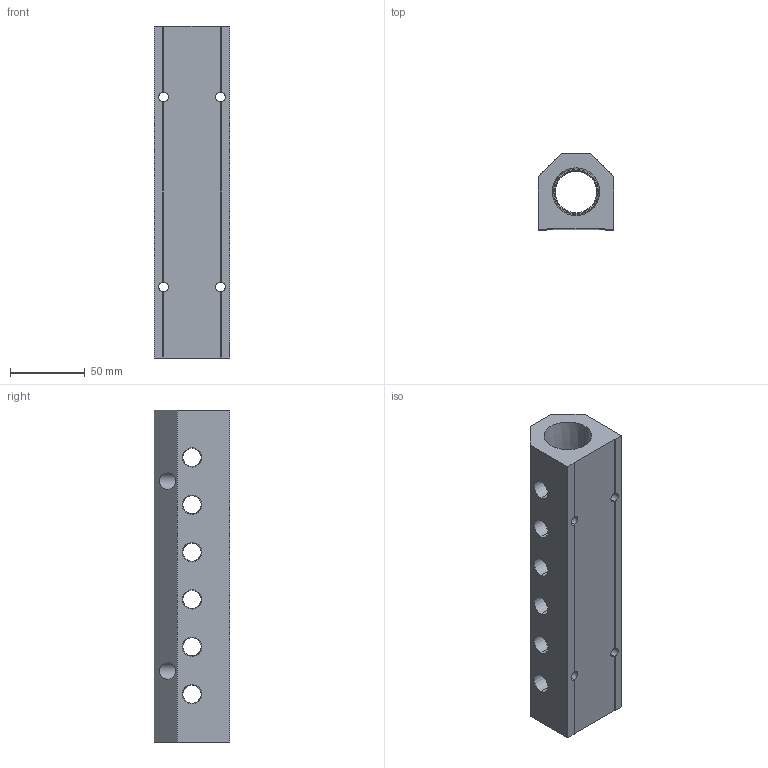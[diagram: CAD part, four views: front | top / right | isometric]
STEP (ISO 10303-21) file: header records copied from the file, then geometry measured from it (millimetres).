
FILE_DESCRIPTION (( 'STEP AP214' ), '1' );
FILE_NAME ('ALM6ACE-N4N16-222B.STEP', '2023-11-02T06:36:45', ( '' ), ( '' ), 'SwSTEP 2.0', 'SolidWorks 2020', '' );
FILE_SCHEMA (( 'AUTOMOTIVE_DESIGN' ));
Length unit declared in the file: millimetre
Products named in the file (1): ALM6ACE-N4N16-222B
Bounding box: 50.8 x 50.8 x 222 mm (x, y, z)
Volume: 338473.9 mm3; surface area: 71942.4 mm2
Topology: 1 solids, 1 shells, 342 faces, 917 edges, 598 vertices
Faces by surface type: plane 218, bspline 58, cone 44, cylinder 22
Entity records: 18899 total; most frequent: CARTESIAN_POINT 7530, ORIENTED_EDGE 1834, DIRECTION 1399, EDGE_CURVE 917, VECTOR 669, LINE 669, VERTEX_POINT 598, EDGE_LOOP 409
